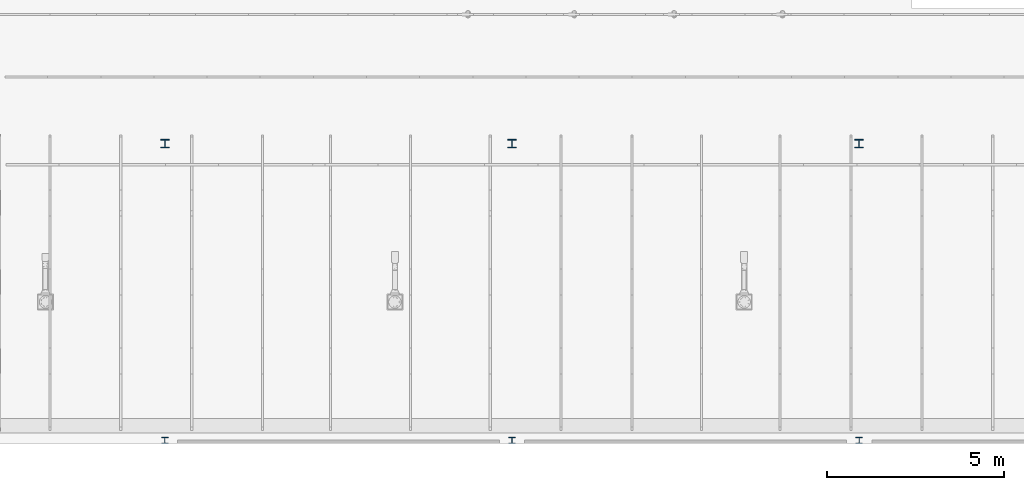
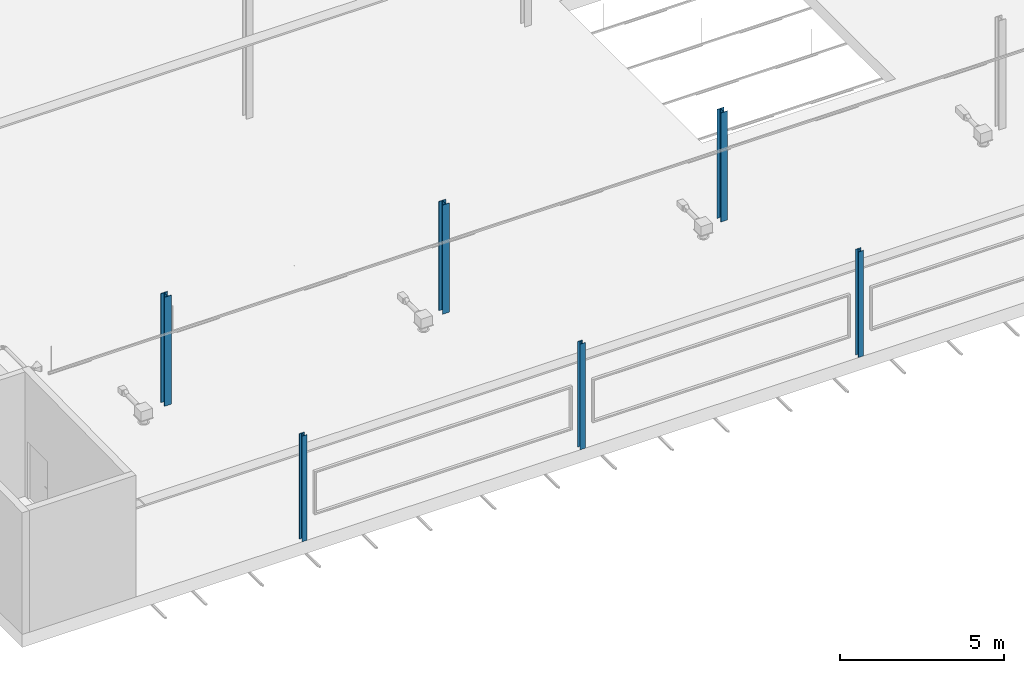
# One storey, part 1 of 290: 6 columns.
"""IFC2X3 building model written with IfcOpenShell, lengths in metres."""

from ifc_helpers import new_model, entity, si_unit, converted_unit, derived_unit, direction, frame, frame_2d, origin, place, context, subcontext, project, spatial, polyline, circle_curve, parameter, trimmed, segment, composite_curve, i_section, outline, extrude, source, transform, mapped, material, type_object, type_shapes, element, save


model = new_model("IFC2X3")

# Units and contexts
model_context = context("Model", 3, precision=1e-05, world=origin(), true_north=direction((6.12303176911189e-17, 1.0)))
body_context = subcontext(model_context, "Body", "Model", "MODEL_VIEW")
ifc_project = project(units=[si_unit("LENGTHUNIT", "METRE"), si_unit("AREAUNIT", "SQUARE_METRE"), si_unit("VOLUMEUNIT", "CUBIC_METRE"), converted_unit("PLANEANGLEUNIT", "DEGREE", entity("IfcRatioMeasure", 0.0174532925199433), si_unit("PLANEANGLEUNIT", "RADIAN"), dimensions=[0, 0, 0, 0, 0, 0, 0]), si_unit("MASSUNIT", "GRAM", prefix="KILO"), derived_unit("MASSDENSITYUNIT", [(si_unit("MASSUNIT", "GRAM", prefix="KILO"), 1), (si_unit("LENGTHUNIT", "METRE"), -3)]), derived_unit("MOMENTOFINERTIAUNIT", [(si_unit("LENGTHUNIT", "METRE"), 4)]), si_unit("TIMEUNIT", "SECOND"), si_unit("FREQUENCYUNIT", "HERTZ"), si_unit("THERMODYNAMICTEMPERATUREUNIT", "DEGREE_CELSIUS"), derived_unit("THERMALTRANSMITTANCEUNIT", [(si_unit("MASSUNIT", "GRAM", prefix="KILO"), 1), (si_unit("THERMODYNAMICTEMPERATUREUNIT", "KELVIN"), -1), (si_unit("TIMEUNIT", "SECOND"), -3)]), derived_unit("VOLUMETRICFLOWRATEUNIT", [(si_unit("LENGTHUNIT", "METRE"), 3), (si_unit("TIMEUNIT", "SECOND"), -1)]), si_unit("ELECTRICCURRENTUNIT", "AMPERE"), si_unit("ELECTRICVOLTAGEUNIT", "VOLT"), si_unit("POWERUNIT", "WATT"), si_unit("FORCEUNIT", "NEWTON", prefix="KILO"), si_unit("ILLUMINANCEUNIT", "LUX"), si_unit("LUMINOUSFLUXUNIT", "LUMEN"), si_unit("LUMINOUSINTENSITYUNIT", "CANDELA"), derived_unit("USERDEFINED", [(si_unit("MASSUNIT", "GRAM", prefix="KILO"), -1), (si_unit("LENGTHUNIT", "METRE"), -2), (si_unit("TIMEUNIT", "SECOND"), 3), (si_unit("LUMINOUSFLUXUNIT", "LUMEN"), 1)]), derived_unit("LINEARVELOCITYUNIT", [(si_unit("LENGTHUNIT", "METRE"), 1), (si_unit("TIMEUNIT", "SECOND"), -1)]), si_unit("PRESSUREUNIT", "PASCAL"), derived_unit("USERDEFINED", [(si_unit("LENGTHUNIT", "METRE"), -2), (si_unit("MASSUNIT", "GRAM", prefix="KILO"), 1), (si_unit("TIMEUNIT", "SECOND"), -2)]), derived_unit("LINEARFORCEUNIT", [(si_unit("MASSUNIT", "GRAM", prefix="KILO"), 1), (si_unit("LENGTHUNIT", "METRE"), 1), (si_unit("TIMEUNIT", "SECOND"), -2), (si_unit("LENGTHUNIT", "METRE"), -1)]), derived_unit("PLANARFORCEUNIT", [(si_unit("MASSUNIT", "GRAM", prefix="KILO"), 1), (si_unit("LENGTHUNIT", "METRE"), 1), (si_unit("TIMEUNIT", "SECOND"), -2), (si_unit("LENGTHUNIT", "METRE"), -2)])], contexts=[model_context])

# Site, building, storey
site_placement = place(None, origin())
site = spatial("IfcSite", under=ifc_project, at=site_placement, Name="Default", CompositionType="ELEMENT")
building_placement = place(site_placement, origin())
building = spatial("IfcBuilding", under=site, at=building_placement, CompositionType="ELEMENT")
storey_placement = place(building_placement, frame((0.0, 0.0, 4.0)))
storey = spatial("IfcBuildingStorey", under=building, at=storey_placement, Name="01_OG", CompositionType="ELEMENT", Elevation=4.0)

# Columns
ifc_material = material(Name="Metall - Baustahl S235")
column_type_1 = type_object("IfcColumnType", Name="HEB Stütze:HEB 240", PredefinedType="COLUMN", material=ifc_material)
shared_shape_1 = source(origin(), body_context, "Body", "SweptSolid", [
    extrude(outline(composite_curve([segment(polyline([(0.103000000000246, -0.119999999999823), (0.120000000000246, -0.119999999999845)]), True, "CONTINUOUS"), segment(polyline([(0.120000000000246, -0.119999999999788), (0.119999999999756, 0.120000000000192)]), True, "CONTINUOUS"), segment(polyline([(0.119999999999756, 0.120000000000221), (0.102999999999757, 0.120000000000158)]), True, "CONTINUOUS"), segment(polyline([(0.102999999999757, 0.120000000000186), (0.102999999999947, 0.0268000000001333)]), True, "CONTINUOUS"), segment(trimmed(circle_curve(frame_2d((0.0811999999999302, 0.0268000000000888), x_axis=(1.0, 0.0)), 0.0218000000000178), [parameter(270.000000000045)], [parameter(0.0)], True, "PARAMETER"), False, "CONTINUOUS"), segment(polyline([(0.0811999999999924, 0.00500000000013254), (-0.0812000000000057, 0.0049999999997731)]), True, "CONTINUOUS"), segment(trimmed(circle_curve(frame_2d((-0.0812000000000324, 0.0267999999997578), x_axis=(0.0, -1.0)), 0.0218000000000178), [parameter(270.000000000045)], [parameter(0.0)], True, "PARAMETER"), False, "CONTINUOUS"), segment(polyline([(-0.103000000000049, 0.0267999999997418), (-0.103000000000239, 0.119999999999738)]), True, "CONTINUOUS"), segment(polyline([(-0.103000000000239, 0.119999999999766), (-0.120000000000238, 0.119999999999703)]), True, "CONTINUOUS"), segment(polyline([(-0.120000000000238, 0.119999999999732), (-0.119999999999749, -0.120000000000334)]), True, "CONTINUOUS"), segment(polyline([(-0.119999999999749, -0.120000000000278), (-0.10299999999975, -0.1200000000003)]), True, "CONTINUOUS"), segment(polyline([(-0.10299999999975, -0.120000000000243), (-0.10299999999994, -0.0268000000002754)]), True, "CONTINUOUS"), segment(trimmed(circle_curve(frame_2d((-0.0811999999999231, -0.026800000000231), x_axis=(-1.0, 0.0)), 0.0218000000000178), [parameter(270.000000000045)], [parameter(0.0)], True, "PARAMETER"), False, "CONTINUOUS"), segment(polyline([(-0.0811999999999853, -0.00500000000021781), (0.0812000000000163, -0.0049999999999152)]), True, "CONTINUOUS"), segment(trimmed(circle_curve(frame_2d((0.0812000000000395, -0.0267999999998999), x_axis=(0.0, 1.0)), 0.0218000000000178), [parameter(270.000000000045)], [parameter(0.0)], True, "PARAMETER"), False, "CONTINUOUS"), segment(polyline([(0.103000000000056, -0.0267999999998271), (0.103000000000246, -0.11999999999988)]), True, "CONTINUOUS")], self_intersect=False)), frame((-237.147611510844, 23.448088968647, 4.48), z_axis=(0.0, 0.0, 1.0), x_axis=(0.0, -1.0, 0.0)), (0.0, 0.0, 1.0), 4.057),
])
type_shapes(column_type_1, [shared_shape_1])
column_1_placement = place(storey_placement, frame((0.0, 0.0, -4.0)))
element("IfcColumn", 1, at=column_1_placement, inside=storey, type_object=column_type_1, material=ifc_material, Name="HEB Stütze:HEB 240", ObjectType="HEB Stütze:HEB 240", context=body_context, shape_type="MappedRepresentation", body=[
    mapped(shared_shape_1, transform((0.0, 0.0, 0.0), scale=1.0)),
])
column_type_2 = type_object("IfcColumnType", Name="HEB Stütze:HEB 240", PredefinedType="COLUMN", material=ifc_material)
shared_shape_2 = source(origin(), body_context, "Body", "SweptSolid", [
    extrude(outline(composite_curve([segment(polyline([(0.103000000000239, -0.119999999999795), (0.120000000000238, -0.119999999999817)]), True, "CONTINUOUS"), segment(polyline([(0.120000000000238, -0.11999999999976), (0.119999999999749, 0.120000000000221)]), True, "CONTINUOUS"), segment(polyline([(0.119999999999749, 0.120000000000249), (0.10299999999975, 0.120000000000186)]), True, "CONTINUOUS"), segment(polyline([(0.10299999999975, 0.120000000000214), (0.10299999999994, 0.0268000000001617)]), True, "CONTINUOUS"), segment(trimmed(circle_curve(frame_2d((0.0811999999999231, 0.0268000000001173), x_axis=(1.0, 0.0)), 0.0218000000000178), [parameter(270.000000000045)], [parameter(0.0)], True, "PARAMETER"), False, "CONTINUOUS"), segment(polyline([(0.0811999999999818, 0.00500000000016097), (-0.0812000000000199, 0.00499999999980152)]), True, "CONTINUOUS"), segment(trimmed(circle_curve(frame_2d((-0.081200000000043, 0.0267999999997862), x_axis=(0.0, -1.0)), 0.0218000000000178), [parameter(270.000000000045)], [parameter(0.0)], True, "PARAMETER"), False, "CONTINUOUS"), segment(polyline([(-0.10300000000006, 0.0267999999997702), (-0.10300000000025, 0.119999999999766)]), True, "CONTINUOUS"), segment(polyline([(-0.10300000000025, 0.119999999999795), (-0.120000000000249, 0.119999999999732)]), True, "CONTINUOUS"), segment(polyline([(-0.120000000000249, 0.11999999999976), (-0.11999999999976, -0.120000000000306)]), True, "CONTINUOUS"), segment(polyline([(-0.11999999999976, -0.120000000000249), (-0.10299999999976, -0.120000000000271)]), True, "CONTINUOUS"), segment(polyline([(-0.10299999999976, -0.120000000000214), (-0.10299999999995, -0.026800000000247)]), True, "CONTINUOUS"), segment(trimmed(circle_curve(frame_2d((-0.0811999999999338, -0.0268000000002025), x_axis=(-1.0, 0.0)), 0.0218000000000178), [parameter(270.000000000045)], [parameter(0.0)], True, "PARAMETER"), False, "CONTINUOUS"), segment(polyline([(-0.0811999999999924, -0.00500000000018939), (0.0812000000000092, -0.00499999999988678)]), True, "CONTINUOUS"), segment(trimmed(circle_curve(frame_2d((0.0812000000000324, -0.0267999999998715), x_axis=(0.0, 1.0)), 0.0218000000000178), [parameter(270.000000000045)], [parameter(0.0)], True, "PARAMETER"), False, "CONTINUOUS"), segment(polyline([(0.103000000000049, -0.0267999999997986), (0.103000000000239, -0.119999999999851)]), True, "CONTINUOUS")], self_intersect=False)), frame((-246.935111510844, 23.448088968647, 4.48), z_axis=(0.0, 0.0, 1.0), x_axis=(0.0, -1.0, 0.0)), (0.0, 0.0, 1.0), 4.057),
])
type_shapes(column_type_2, [shared_shape_2])
column_2_placement = place(storey_placement, frame((0.0, 0.0, -4.0)))
element("IfcColumn", 2, at=column_2_placement, inside=storey, type_object=column_type_2, material=ifc_material, Name="HEB Stütze:HEB 240", ObjectType="HEB Stütze:HEB 240", context=body_context, shape_type="MappedRepresentation", body=[
    mapped(shared_shape_2, transform((0.0, 0.0, 0.0), scale=1.0)),
])
column_type_3 = type_object("IfcColumnType", Name="HEB Stütze:HEB 240", PredefinedType="COLUMN", material=ifc_material)
shared_shape_3 = source(origin(), body_context, "Body", "SweptSolid", [
    extrude(outline(composite_curve([segment(polyline([(0.103000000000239, -0.119999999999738), (0.120000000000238, -0.11999999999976)]), True, "CONTINUOUS"), segment(polyline([(0.120000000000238, -0.119999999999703), (0.119999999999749, 0.120000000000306)]), True, "CONTINUOUS"), segment(polyline([(0.119999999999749, 0.120000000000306), (0.10299999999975, 0.120000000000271)]), True, "CONTINUOUS"), segment(polyline([(0.10299999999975, 0.120000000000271), (0.10299999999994, 0.026800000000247)]), True, "CONTINUOUS"), segment(trimmed(circle_curve(frame_2d((0.0811999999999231, 0.0268000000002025), x_axis=(1.0, 0.0)), 0.0218000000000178), [parameter(270.000000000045)], [parameter(0.0)], True, "PARAMETER"), False, "CONTINUOUS"), segment(polyline([(0.0811999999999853, 0.00500000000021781), (-0.0812000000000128, 0.00499999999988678)]), True, "CONTINUOUS"), segment(trimmed(circle_curve(frame_2d((-0.0812000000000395, 0.0267999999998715), x_axis=(0.0, -1.0)), 0.0218000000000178), [parameter(270.000000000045)], [parameter(0.0)], True, "PARAMETER"), False, "CONTINUOUS"), segment(polyline([(-0.103000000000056, 0.0267999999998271), (-0.103000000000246, 0.119999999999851)]), True, "CONTINUOUS"), segment(polyline([(-0.103000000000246, 0.119999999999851), (-0.120000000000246, 0.119999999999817)]), True, "CONTINUOUS"), segment(polyline([(-0.120000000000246, 0.119999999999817), (-0.119999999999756, -0.120000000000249)]), True, "CONTINUOUS"), segment(polyline([(-0.119999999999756, -0.120000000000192), (-0.102999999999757, -0.120000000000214)]), True, "CONTINUOUS"), segment(polyline([(-0.102999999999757, -0.120000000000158), (-0.102999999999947, -0.0268000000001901)]), True, "CONTINUOUS"), segment(trimmed(circle_curve(frame_2d((-0.0811999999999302, -0.0268000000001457), x_axis=(-1.0, 0.0)), 0.0218000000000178), [parameter(270.000000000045)], [parameter(0.0)], True, "PARAMETER"), False, "CONTINUOUS"), segment(polyline([(-0.0811999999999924, -0.00500000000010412), (0.0812000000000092, -0.00499999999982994)]), True, "CONTINUOUS"), segment(trimmed(circle_curve(frame_2d((0.0812000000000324, -0.0267999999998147), x_axis=(0.0, 1.0)), 0.0218000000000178), [parameter(270.000000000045)], [parameter(0.0)], True, "PARAMETER"), False, "CONTINUOUS"), segment(polyline([(0.103000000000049, -0.0267999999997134), (0.103000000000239, -0.119999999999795)]), True, "CONTINUOUS")], self_intersect=False)), frame((-256.722611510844, 23.448088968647, 4.48), z_axis=(0.0, 0.0, 1.0), x_axis=(0.0, -1.0, 0.0)), (0.0, 0.0, 1.0), 4.05704999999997),
])
type_shapes(column_type_3, [shared_shape_3])
column_3_placement = place(storey_placement, frame((0.0, 0.0, -4.0)))
element("IfcColumn", 3, at=column_3_placement, inside=storey, type_object=column_type_3, material=ifc_material, Name="HEB Stütze:HEB 240", ObjectType="HEB Stütze:HEB 240", context=body_context, shape_type="MappedRepresentation", body=[
    mapped(shared_shape_3, transform((0.0, 0.0, 0.0), scale=1.0)),
])
column_type_4 = type_object("IfcColumnType", Name="HEA Stütze:HEA 180", PredefinedType="COLUMN", material=ifc_material)
shared_shape_4 = source(origin(), body_context, "Body", "SweptSolid", [
    extrude(i_section(OverallWidth=0.18, OverallDepth=0.171, WebThickness=0.00599999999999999, FlangeThickness=0.0095, FilletRadius=0.0149999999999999, at=frame_2d((0.0, 0.0), x_axis=(0.0, 1.0))), frame((0.0, 0.0, 4.48), z_axis=(0.0, 0.0, 1.0), x_axis=(0.0, -1.0, 0.0)), (0.0, 0.0, 1.0), 3.93),
])
type_shapes(column_type_4, [shared_shape_4])
for number, where in (
    (4, (-256.722611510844, 15.083588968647, -4.0)),
    (5, (-246.935111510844, 15.083588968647, -4.0)),
    (6, (-237.147611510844, 15.083588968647, -4.0)),
):
    element("IfcColumn", number, at=place(storey_placement, frame(where)), inside=storey, type_object=column_type_4, material=ifc_material, Name="HEA Stütze:HEA 180", ObjectType="HEA Stütze:HEA 180", context=body_context, shape_type="MappedRepresentation", body=[
        mapped(shared_shape_4, transform((0.0, 0.0, 0.0), scale=1.0)),
    ])

save(model, "model.ifc")
